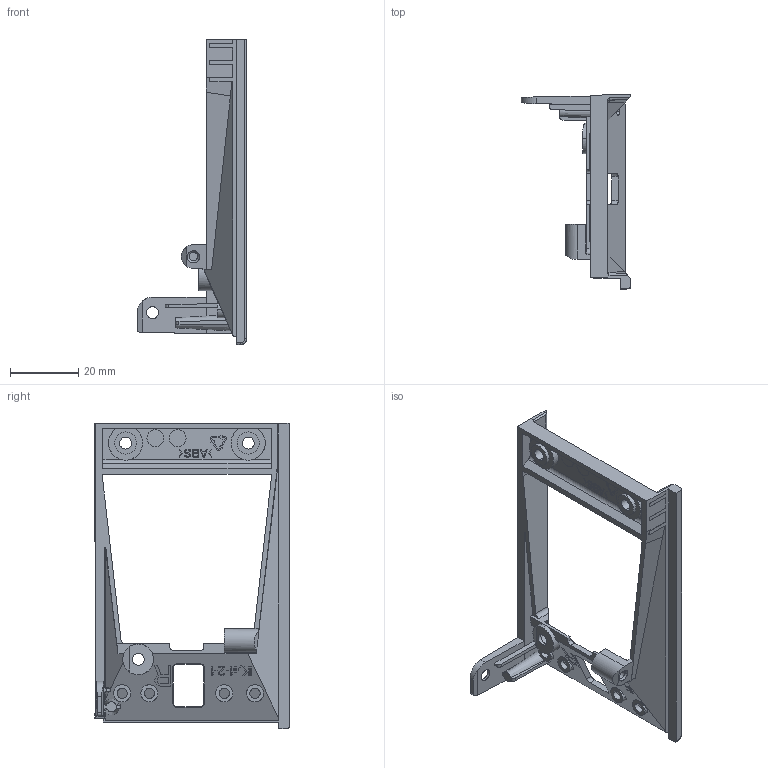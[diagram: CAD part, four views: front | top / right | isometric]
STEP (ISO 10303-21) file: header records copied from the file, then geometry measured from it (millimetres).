
FILE_DESCRIPTION((''),'2;1');
FILE_NAME('DECO_SIDE_UA300','2021-03-17T',('kym12'),(''),'CREO PARAMETRIC BY PTC INC, 2017170','CREO PARAMETRIC BY PTC INC, 2017170','');
FILE_SCHEMA(('CONFIG_CONTROL_DESIGN'));
Length unit declared in the file: millimetre
Products named in the file (1): DECO_SIDE_UA300
Bounding box: 32.18 x 57 x 89.85 mm (x, y, z)
Volume: 10675.7 mm3; surface area: 11580.4 mm2
Topology: 1 solids, 1 shells, 516 faces, 1407 edges, 933 vertices
Faces by surface type: plane 425, cylinder 65, cone 13, bspline 13
Entity records: 17119 total; most frequent: CARTESIAN_POINT 4124, ORIENTED_EDGE 2814, DIRECTION 2412, EDGE_CURVE 1407, VECTOR 1210, LINE 1210, VERTEX_POINT 933, AXIS2_PLACEMENT_3D 601
